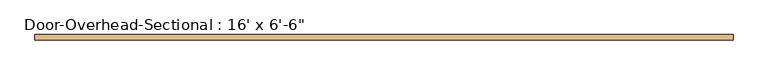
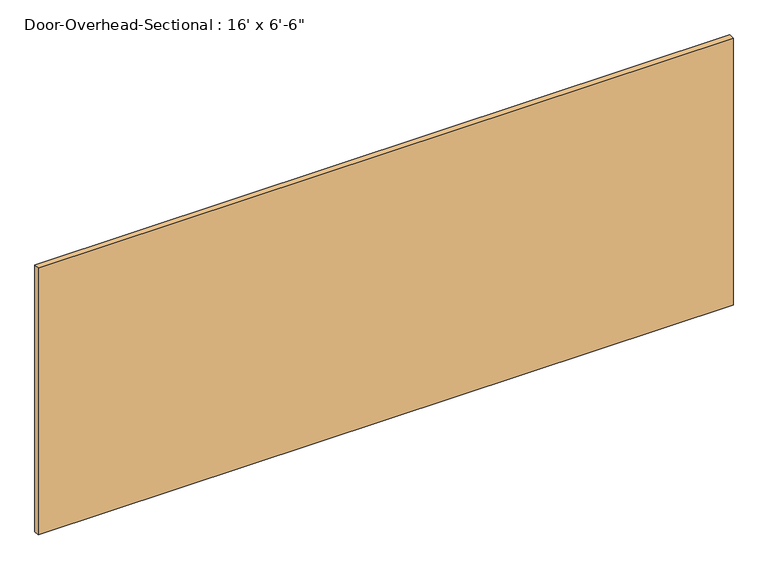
"""IFC4 building model written with IfcOpenShell, lengths in millimetres: door geometry."""

from ifc_helpers import new_model, si_unit, origin, origin_with_axes, place, context, project, spatial, polyline, outline, extrude, source, transform, mapped, element, save


def door_03d53f81(model_context):
    return source(origin(), model_context, "Body", "SweptSolid", [
        extrude(outline(polyline([(2438.4, 152.4), (-2438.4, 152.4), (-2438.4, 190.5), (2438.4, 190.5), (2438.4, 152.4)])), origin_with_axes(), (0.0, 0.0, 1.0), 1981.2),
    ])


if __name__ == "__main__":
    model = new_model("IFC4")
    model_context = context("Model", 3, world=origin())
    ifc_project = project(units=[si_unit("LENGTHUNIT", "METRE", prefix="MILLI")], contexts=[model_context])
    site = spatial("IfcSite", under=ifc_project)
    building = spatial("IfcBuilding", under=site)
    placement = place(None, origin())
    door_shape = door_03d53f81(model_context)
    element("IfcDoor", 1, ObjectType="Door-Overhead-Sectional : 16' x 6'-6\"", at=placement, inside=building, context=model_context, shape_type="MappedRepresentation", body=[
        mapped(door_shape, transform((0.0, 0.0, 0.0), x_axis=(1.0, 0.0, 0.0), y_axis=(0.0, 1.0, 0.0), z_axis=(0.0, 0.0, 1.0))),
    ])
    save(model, "model.ifc")
